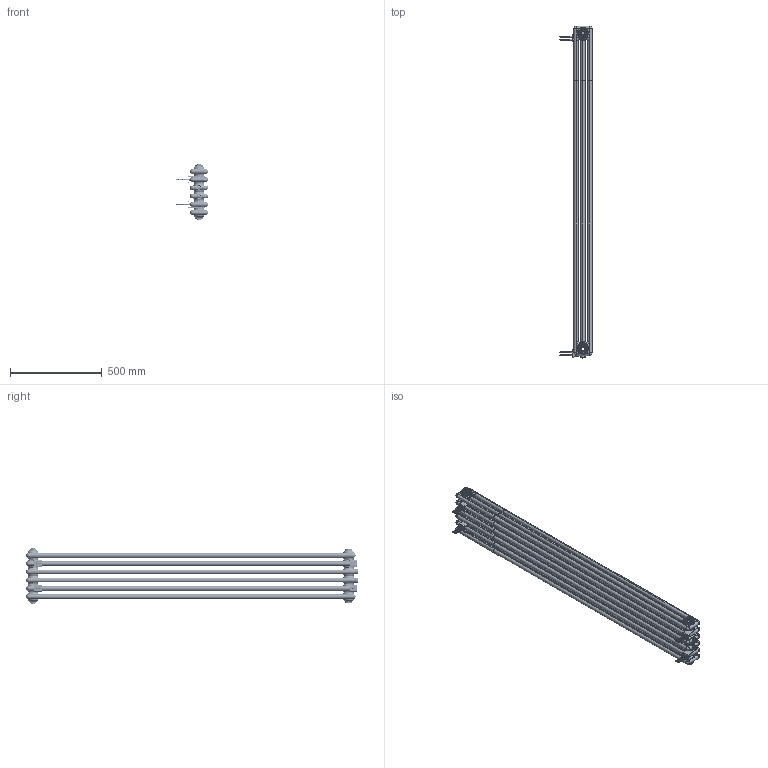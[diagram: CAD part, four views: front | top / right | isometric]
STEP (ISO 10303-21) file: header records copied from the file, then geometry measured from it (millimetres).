
FILE_DESCRIPTION(/* description */ (''),/* implementation_level */ '2;1');
FILE_NAME(/* name */ 'CL03 1800x290',/* time_stamp */ '2023-09-09T16:37:55+08:00',/* author */ (''),/* organization */ (''),/* preprocessor_version */ 'ST-DEVELOPER v9',/* originating_system */ 'UGS - NX 4.0',/* authorisation */ '');
FILE_SCHEMA (('CONFIG_CONTROL_DESIGN'));
Length unit declared in the file: millimetre
Products named in the file (1): AdmiF21Fp06l
Bounding box: 176.1 x 1813 x 304 mm (x, y, z)
Volume: 3070057.4 mm3; surface area: 4992828.9 mm2
Topology: 33 solids, 33 shells, 3191 faces, 7785 edges, 4669 vertices
Faces by surface type: cylinder 945, bspline 931, plane 628, torus 356, cone 331
Full cylindrical faces by diameter (mm): 25 x2
Entity records: 197772 total; most frequent: CARTESIAN_POINT 131590, ORIENTED_EDGE 15538, DIRECTION 11469, EDGE_CURVE 7769, VERTEX_POINT 4671, AXIS2_PLACEMENT_3D 4655, EDGE_LOOP 3340, ADVANCED_FACE 3191
